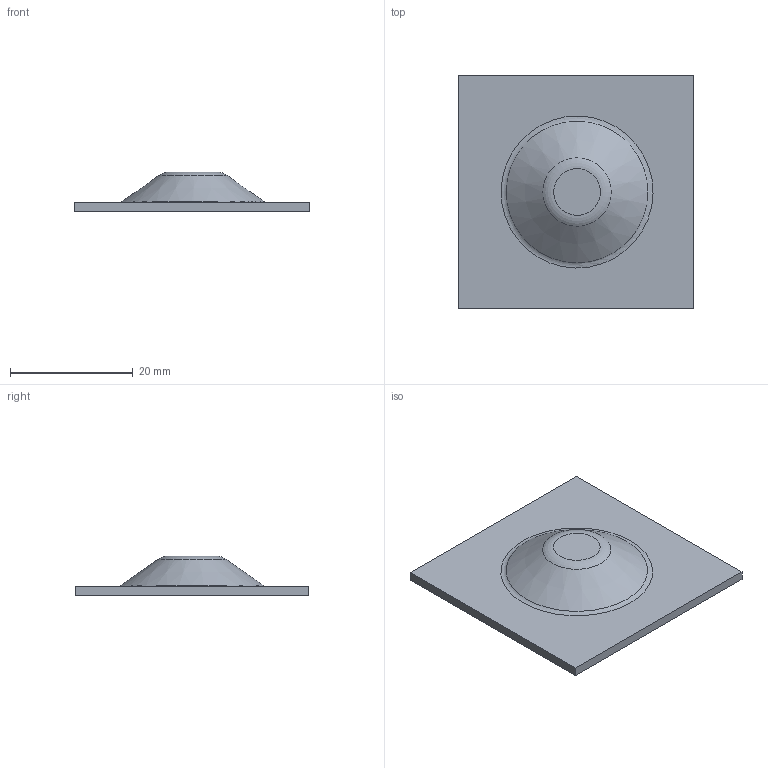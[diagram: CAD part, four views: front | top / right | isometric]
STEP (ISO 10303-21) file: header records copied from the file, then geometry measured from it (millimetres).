
FILE_DESCRIPTION((''),'2;1');
FILE_NAME('C:/Users/ericfrey/Desktop/TEK DIMPLE.STP', '2023-07-12T17:21:36',(''), (''), 'Kubotek Kosmos Version 5.0.12905.12905', 'KeyCreator Pro', '');
FILE_SCHEMA(('CONFIG_CONTROL_DESIGN'));
Length unit declared in the file: inch
Bounding box: 38.42 x 38.11 x 6.5 mm (x, y, z)
Volume: 2309.6 mm3; surface area: 3309.1 mm2
Topology: 1 solids, 1 shells, 14 faces, 28 edges, 18 vertices
Faces by surface type: plane 8, torus 4, cone 2
Entity records: 471 total; most frequent: DIRECTION 68, CARTESIAN_POINT 62, ORIENTED_EDGE 56, GENERAL_PROPERTY 35, EDGE_CURVE 28, AXIS2_PLACEMENT_3D 27, VERTEX_POINT 18, EDGE_LOOP 16
